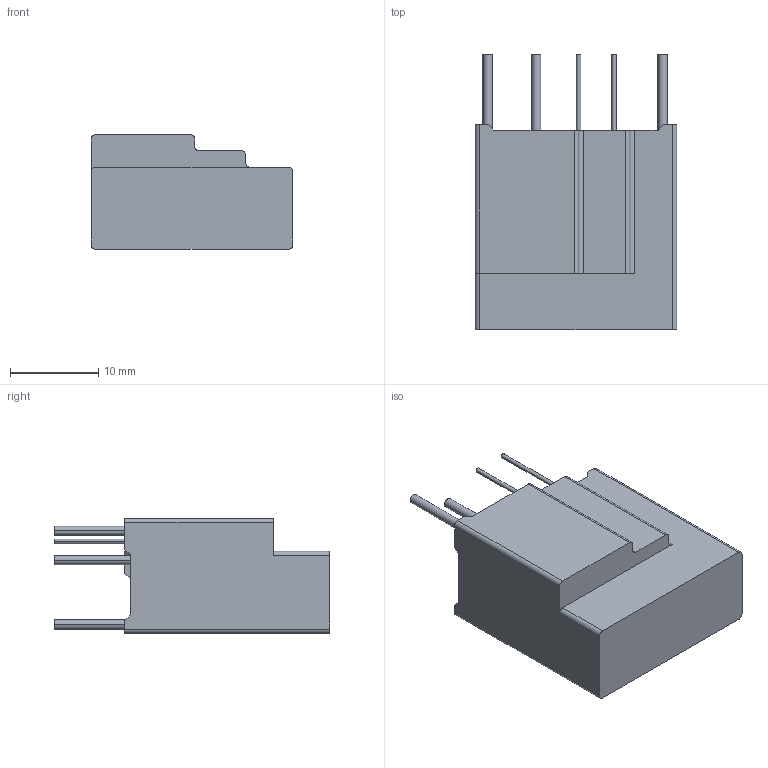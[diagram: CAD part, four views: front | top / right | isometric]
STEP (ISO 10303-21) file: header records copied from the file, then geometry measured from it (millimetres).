
FILE_DESCRIPTION((''),'2;1');
FILE_NAME('20S4601-IT-20200616','2020-06-19T',('set'),(''),'PRO/ENGINEER BY PARAMETRIC TECHNOLOGY CORPORATION, 2012310','PRO/ENGINEER BY PARAMETRIC TECHNOLOGY CORPORATION, 2012310','');
FILE_SCHEMA(('CONFIG_CONTROL_DESIGN','SHAPE_APPEARANCE_LAYERS_GROUPS'));
Length unit declared in the file: millimetre
Products named in the file (1): 20S4601-IT-20200616
Bounding box: 22.8 x 31.2 x 13 mm (x, y, z)
Volume: 1551.7 mm3; surface area: 4034.8 mm2
Topology: 1 solids, 2 shells, 110 faces, 303 edges, 202 vertices
Faces by surface type: plane 80, cylinder 30
Entity records: 3536 total; most frequent: CARTESIAN_POINT 615, ORIENTED_EDGE 606, DIRECTION 583, EDGE_CURVE 303, VECTOR 243, LINE 243, VERTEX_POINT 202, AXIS2_PLACEMENT_3D 170
